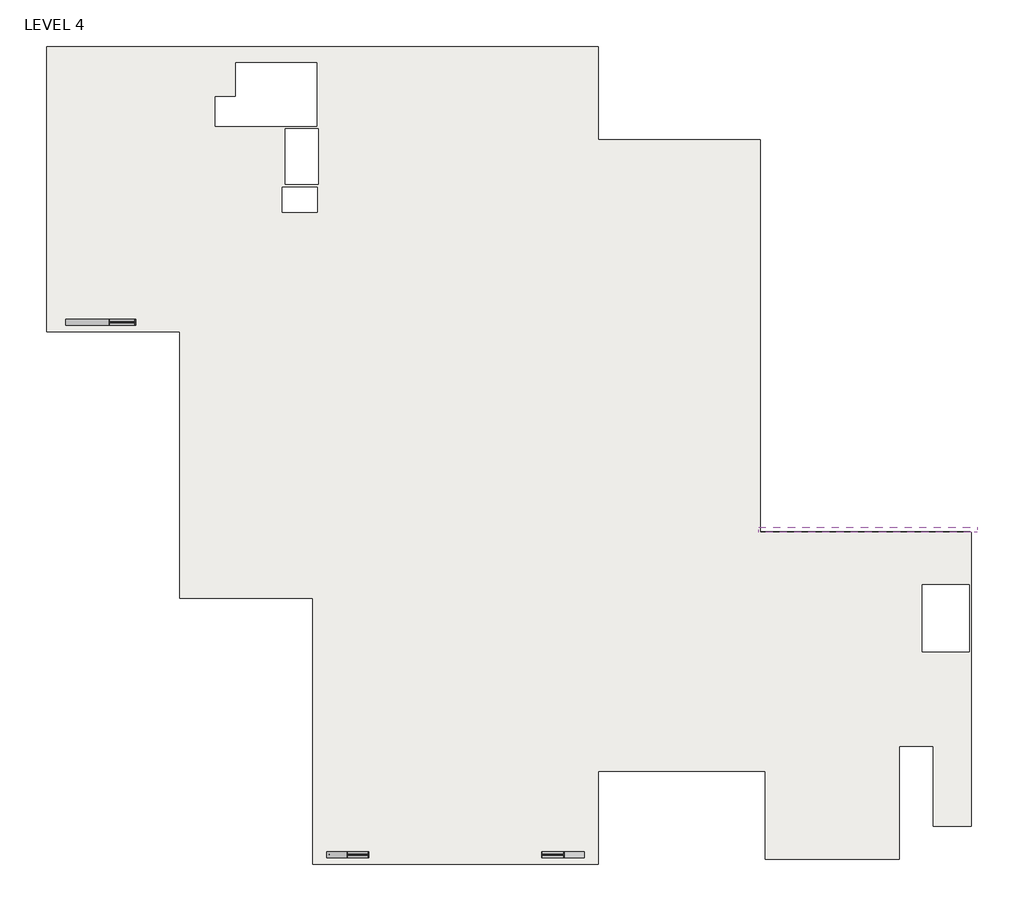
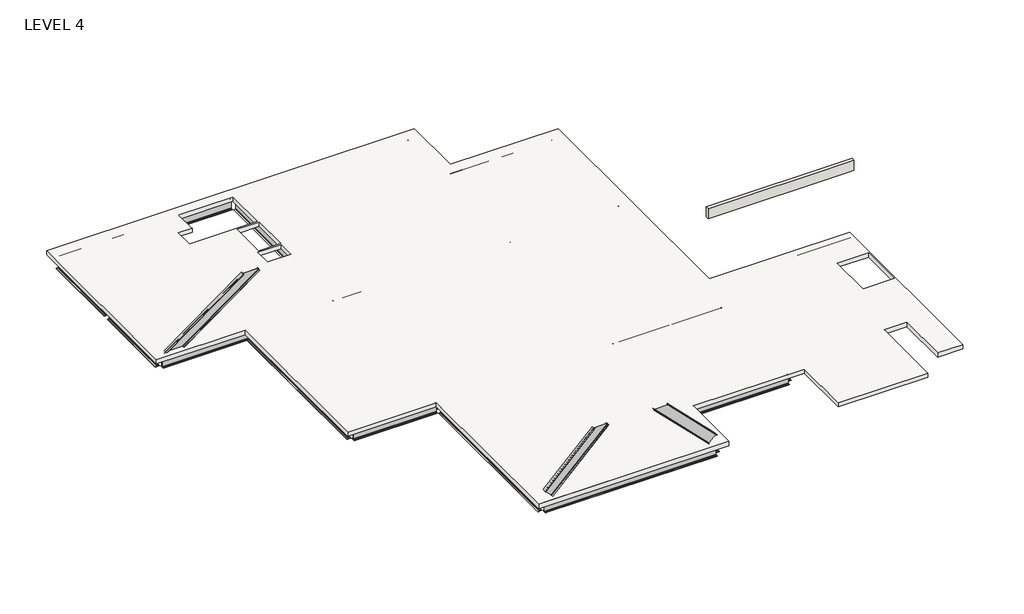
# One storey: 27 beams, 2 members, 1 slab, 1 wall.
"""IFC4 building model written with IfcOpenShell, lengths in millimetres."""

from ifc_helpers import new_model, si_unit, frame, origin, place, context, project, spatial, polyline, circle_curve, ellipse_curve, faceted_brep, transform, mapped, element, save
from ifc_brep_helpers import plane_surface, revolved_surface, advanced_brep
from components import w_wide_flange_w24x68_288c4e1d, w_wide_flange_w24x68_f1038f88, w_wide_flange_w24x68_9aefc99e, w_wide_flange_w24x68_ad03e389, w_wide_flange_w24x68_ff5f66c1, w_wide_flange_w24x68_64a19b5f, w_wide_flange_w24x68_3a27caef, w_wide_flange_w24x68_d201753e, w_wide_flange_w24x68_4ed4cbdf, w_wide_flange_w24x68_a18b2e65, w_wide_flange_w24x68_7e912eba

model = new_model("IFC4")

# Units and contexts
model_context = context("Model", 3, world=origin())
ifc_project = project(units=[si_unit("LENGTHUNIT", "METRE", prefix="MILLI")], contexts=[model_context])

# Site, building, storey
site = spatial("IfcSite", under=ifc_project)
building = spatial("IfcBuilding", under=site)
storey = spatial("IfcBuildingStorey", under=building, Name="LEVEL 4", Elevation=12801.6)

# Beams
placement = place(None, origin())
element("IfcBeam", 1, ObjectType="W-Wide Flange : W24X68", at=placement, inside=storey, context=model_context, shape_type="AdvancedBrep", body=[
    advanced_brep(
    [(-13126.6178135, 4131.6776318, 15952.3183163), (-13126.6178135, 4046.2701318, 15952.3183163), (-13140.2595154, 4023.0291318, 15971.1344809), (-13161.7604848, 4023.0291318, 16000.7910286), (-13161.7604848, 4012.4881318, 16000.7910286), (-13140.2595154, 4012.4881318, 15971.1344809), (-13126.6178135, 3989.2471318, 15952.3183163), (-13126.6178135, 3903.8396318, 15952.3183163), (-13117.8960697, 3903.8396318, 15940.2883094), (-13117.8960697, 4131.6776318, 15940.2883094), (-17619.936289, 4131.6776318, 12694.6666053), (-17619.936289, 4046.2701318, 12694.6666053), (-17659.5313547, 4023.0291318, 12694.6666053), (-13995.1111042, 4023.0291318, 16000.7910286), (-18555.2885791, 4023.0291318, 12694.6666053), (-14034.7061699, 4046.2701318, 16000.7910286), (-18594.8836448, 4046.2701318, 12694.6666053), (-14034.7061699, 4131.6776318, 16000.7910286), (-18594.8836448, 4131.6776318, 12694.6666053), (-14060.021048, 4131.6776318, 16000.7910286), (-18620.1985229, 4131.6776318, 12694.6666053), (-14060.021048, 3903.8396318, 16000.7910286), (-18620.1985229, 3903.8396318, 12694.6666053), (-14034.7061699, 3903.8396318, 16000.7910286), (-18594.8836448, 3903.8396318, 12694.6666053), (-14034.7061699, 3989.2471318, 16000.7910286), (-18594.8836448, 3989.2471318, 12694.6666053), (-13995.1111042, 4012.4881318, 16000.7910286), (-18555.2885791, 4012.4881318, 12694.6666053), (-17659.5313547, 4012.4881318, 12694.6666053), (-17619.936289, 3989.2471318, 12694.6666053), (-17619.936289, 3903.8396318, 12694.6666053), (-17594.6214109, 3903.8396318, 12694.6666053), (-17594.6214109, 4131.6776318, 12694.6666053)],
    [
        (0, 1),
        (1, 2, circle_curve(frame((-13140.2595154, 4046.2701318, 15971.1344809), z_axis=(-0.8096108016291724, 0.0, -0.5869670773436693), x_axis=(0.0, -1.0, 0.0)), 23.241)),
        (2, 3),
        (3, 4),
        (4, 5),
        (5, 6, circle_curve(frame((-13140.2595154, 3989.2471318, 15971.1344809), z_axis=(-0.8096108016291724, 0.0, -0.5869670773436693), x_axis=(0.0, -1.0, 0.0)), 23.241)),
        (6, 7),
        (7, 8),
        (8, 9),
        (9, 0),
        (0, 10),
        (10, 11),
        (11, 1),
        (11, 12, ellipse_curve(frame((-17659.5313547, 4046.2701318, 12694.6666053), z_axis=(0.0, 0.0, -1.0), x_axis=(-1.0, 0.0, 0.0)), 39.5950657, 23.241)),
        (12, 2),
        (13, 3),
        (12, 14),
        (14, 13),
        (15, 13, ellipse_curve(frame((-13995.1111042, 4046.2701318, 16000.7910286), z_axis=(0.0, 0.0, 1.0), x_axis=(-0.9999999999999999, 0.0, 0.0)), 39.5950657, 23.241)),
        (14, 16, ellipse_curve(frame((-18555.2885791, 4046.2701318, 12694.6666053), z_axis=(0.0, 0.0, -1.0), x_axis=(-1.0, 0.0, 0.0)), 39.5950657, 23.241)),
        (16, 15),
        (17, 15),
        (16, 18),
        (18, 17),
        (19, 17),
        (18, 20),
        (20, 19),
        (21, 19),
        (20, 22),
        (22, 21),
        (23, 21),
        (22, 24),
        (24, 23),
        (25, 23),
        (24, 26),
        (26, 25),
        (27, 25, ellipse_curve(frame((-13995.1111042, 3989.2471318, 16000.7910286), z_axis=(0.0, 0.0, 1.0), x_axis=(-0.9999999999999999, 0.0, 0.0)), 39.5950657, 23.241)),
        (26, 28, ellipse_curve(frame((-18555.2885791, 3989.2471318, 12694.6666053), z_axis=(0.0, 0.0, -1.0), x_axis=(-1.0, 0.0, 0.0)), 39.5950657, 23.241)),
        (28, 27),
        (4, 27),
        (28, 29),
        (29, 5),
        (29, 30, ellipse_curve(frame((-17659.5313547, 3989.2471318, 12694.6666053), z_axis=(0.0, 0.0, -1.0), x_axis=(-1.0, 0.0, 0.0)), 39.5950657, 23.241)),
        (30, 6),
        (30, 31),
        (31, 7),
        (31, 32),
        (32, 8),
        (32, 33),
        (33, 9),
        (33, 10),
    ],
    [
        plane_surface(frame((-13294.5672903, 4017.7586318, 16183.9730645), z_axis=(0.8096108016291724, 0.0, 0.586967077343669), x_axis=(-0.586967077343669, 0.0, 0.8096108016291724))),
        plane_surface(frame((-13126.6178135, 4131.6776318, 15952.3183163), z_axis=(-0.5869670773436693, 0.0, 0.8096108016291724), x_axis=(-0.8096108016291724, 0.0, -0.5869670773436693))),
        revolved_surface(polyline([(-17685.484718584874, 4023.0291318, 12675.850440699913), (-13140.259515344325, 4023.0291318, 15971.134480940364)]), (-13140.2595154, 4046.2701318, 15971.1344809), (-0.8096108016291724, 0.0, -0.5869670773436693)),
        plane_surface(frame((-13140.2595154, 4023.0291318, 15971.1344809), z_axis=(0.0, 1.0, 0.0), x_axis=(-0.8096108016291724, 0.0, -0.5869670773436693))),
        revolved_surface(polyline([(-18581.241942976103, 4023.0291318, 12675.850440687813), (-13969.157740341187, 4023.0291318, 16019.607193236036)]), (-13448.8750653, 4046.2701318, 16396.8116482), (-0.8096108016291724, 0.0, -0.5869670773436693)),
        plane_surface(frame((-13462.5167671, 4046.2701318, 16415.6278128), z_axis=(0.5869670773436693, 0.0, -0.8096108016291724), x_axis=(-0.8096108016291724, 0.0, -0.5869670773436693))),
        plane_surface(frame((-13462.5167671, 4131.6776318, 16415.6278128), z_axis=(0.0, 1.0, 0.0), x_axis=(-0.8096108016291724, 0.0, -0.5869670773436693))),
        plane_surface(frame((-13471.238511, 4131.6776318, 16427.6578197), z_axis=(-0.5869670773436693, 0.0, 0.8096108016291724), x_axis=(-0.8096108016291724, 0.0, -0.5869670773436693))),
        plane_surface(frame((-13471.238511, 3903.8396318, 16427.6578197), z_axis=(0.0, -1.0, 0.0), x_axis=(-0.8096108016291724, 0.0, -0.5869670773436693))),
        plane_surface(frame((-13462.5167671, 3903.8396318, 16415.6278128), z_axis=(0.5869670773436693, 0.0, -0.8096108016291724), x_axis=(-0.8096108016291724, 0.0, -0.5869670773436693))),
        revolved_surface(polyline([(-18581.241942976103, 3966.0061318, 12675.850440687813), (-13969.157740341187, 3966.0061318, 16019.607193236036)]), (-13448.8750653, 3989.2471318, 16396.8116482), (-0.8096108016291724, 0.0, -0.5869670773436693)),
        plane_surface(frame((-13448.8750653, 4012.4881318, 16396.8116482), z_axis=(0.0, -1.0, 0.0), x_axis=(-0.8096108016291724, 0.0, -0.5869670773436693))),
        revolved_surface(polyline([(-17685.484718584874, 3966.0061318, 12675.850440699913), (-13140.259515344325, 3966.0061318, 15971.134480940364)]), (-13140.2595154, 3989.2471318, 15971.1344809), (-0.8096108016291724, 0.0, -0.5869670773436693)),
        plane_surface(frame((-13126.6178135, 3989.2471318, 15952.3183163), z_axis=(-0.5869670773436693, 0.0, 0.8096108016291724), x_axis=(-0.8096108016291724, 0.0, -0.5869670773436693))),
        plane_surface(frame((-13126.6178135, 3903.8396318, 15952.3183163), z_axis=(0.0, -1.0, 0.0), x_axis=(-0.8096108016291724, 0.0, -0.5869670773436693))),
        plane_surface(frame((-13117.8960697, 3903.8396318, 15940.2883094), z_axis=(0.5869670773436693, 0.0, -0.8096108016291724), x_axis=(-0.8096108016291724, 0.0, -0.5869670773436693))),
        plane_surface(frame((-13117.8960697, 4131.6776318, 15940.2883094), z_axis=(0.0, 1.0, 0.0), x_axis=(-0.8096108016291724, 0.0, -0.5869670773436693))),
        plane_surface(frame((-14331.6588811, -2592.5913682, 16000.7910286), z_axis=(0.0, 0.0, 1.0), x_axis=(0.0, 1.0, 0.0))),
        plane_surface(frame((-17272.3226619, -2592.5913682, 12694.6666053), z_axis=(0.0, 0.0, -1.0), x_axis=(0.0, 1.0, 0.0))),
    ],
    [
        (0, [[1, 2, 3, 4, 5, 6, 7, 8, 9, 10]]),
        (1, [[-1, 11, 12, 13]]),
        (2, [[-2, -13, 14, 15]]),
        (3, [[16, -3, -15, 17, 18]]),
        (4, [[19, -18, 20, 21]]),
        (5, [[22, -21, 23, 24]]),
        (6, [[25, -24, 26, 27]]),
        (7, [[28, -27, 29, 30]]),
        (8, [[31, -30, 32, 33]]),
        (9, [[34, -33, 35, 36]]),
        (10, [[37, -36, 38, 39]]),
        (11, [[40, -39, 41, 42, -5]]),
        (12, [[-6, -42, 43, 44]]),
        (13, [[-7, -44, 45, 46]]),
        (14, [[-8, -46, 47, 48]]),
        (15, [[-9, -48, 49, 50]]),
        (16, [[-10, -50, 51, -11]]),
        (17, [[-16, -19, -22, -25, -28, -31, -34, -37, -40, -4]]),
        (18, [[-12, -51, -49, -47, -45, -43, -41, -38, -35, -32, -29, -26, -23, -20, -17, -14]]),
    ],
),
])
w_wide_flange_w24x68_shape = w_wide_flange_w24x68_288c4e1d(model_context)
element("IfcBeam", 2, ObjectType="W-Wide Flange : W24X68", at=placement, inside=storey, context=model_context, shape_type="MappedRepresentation", body=[
    mapped(w_wide_flange_w24x68_shape, transform((-18823.0492735, 11637.7586318, 12246.61), x_axis=(0.0, -1.0, 0.0), y_axis=(1.0, 0.0, 0.0), z_axis=(0.0, 0.0, 1.0))),
])
w_wide_flange_w24x68_2_shape = w_wide_flange_w24x68_f1038f88(model_context)
element("IfcBeam", 3, ObjectType="W-Wide Flange : W24X68", at=placement, inside=storey, context=model_context, shape_type="MappedRepresentation", body=[
    mapped(w_wide_flange_w24x68_2_shape, transform((-13743.0492735, 14177.7586318, 12246.61), x_axis=(1.0, 0.0, 0.0), y_axis=(0.0, 1.0, 0.0), z_axis=(0.0, 0.0, 1.0))),
])
element("IfcBeam", 4, ObjectType="W-Wide Flange : W24X68", at=placement, inside=storey, context=model_context, shape_type="MappedRepresentation", body=[
    mapped(w_wide_flange_w24x68_2_shape, transform((-3583.0492735, 14177.7586318, 12246.61), x_axis=(-1.0, 0.0, 0.0), y_axis=(0.0, -1.0, 0.0), z_axis=(0.0, 0.0, 1.0))),
])
element("IfcBeam", 5, ObjectType="W-Wide Flange : W24X68", at=placement, inside=storey, context=model_context, shape_type="MappedRepresentation", body=[
    mapped(w_wide_flange_w24x68_2_shape, transform((-13743.0492735, 4017.7586318, 12246.61), x_axis=(1.0, 0.0, 0.0), y_axis=(0.0, 1.0, 0.0), z_axis=(0.0, 0.0, 1.0))),
])
element("IfcBeam", 6, ObjectType="W-Wide Flange : W24X68", at=placement, inside=storey, context=model_context, shape_type="MappedRepresentation", body=[
    mapped(w_wide_flange_w24x68_2_shape, transform((-3583.0492735, -6142.2413682, 12246.61), x_axis=(1.0, 0.0, 0.0), y_axis=(0.0, 1.0, 0.0), z_axis=(0.0, 0.0, 1.0))),
])
element("IfcBeam", 7, ObjectType="W-Wide Flange : W24X68", at=placement, inside=storey, context=model_context, shape_type="MappedRepresentation", body=[
    mapped(w_wide_flange_w24x68_2_shape, transform((-3583.0492735, 4017.7586318, 12246.61), x_axis=(1.0, 0.0, 0.0), y_axis=(0.0, 1.0, 0.0), z_axis=(0.0, 0.0, 1.0))),
])
w_wide_flange_w24x68_3_shape = w_wide_flange_w24x68_9aefc99e(model_context)
element("IfcBeam", 8, ObjectType="W-Wide Flange : W24X68", at=placement, inside=storey, context=model_context, shape_type="MappedRepresentation", body=[
    mapped(w_wide_flange_w24x68_3_shape, transform((-18823.0492735, 6557.7586318, 12246.61), x_axis=(0.0, 1.0, 0.0), y_axis=(-1.0, 0.0, 0.0), z_axis=(0.0, 0.0, 1.0))),
])
w_wide_flange_w24x68_4_shape = w_wide_flange_w24x68_ad03e389(model_context)
element("IfcBeam", 9, ObjectType="W-Wide Flange : W24X68", at=placement, inside=storey, context=model_context, shape_type="MappedRepresentation", body=[
    mapped(w_wide_flange_w24x68_4_shape, transform((-8663.0492735, -1062.2413682, 12246.61), x_axis=(0.0, -1.0, 0.0), y_axis=(1.0, 0.0, 0.0), z_axis=(0.0, 0.0, 1.0))),
])
element("IfcBeam", 10, ObjectType="W-Wide Flange : W24X68", at=placement, inside=storey, context=model_context, shape_type="MappedRepresentation", body=[
    mapped(w_wide_flange_w24x68_4_shape, transform((7694.5507265, -1062.2413682, 12246.61), x_axis=(0.0, 1.0, 0.0), y_axis=(-1.0, 0.0, 0.0), z_axis=(0.0, 0.0, 1.0))),
])
element("IfcBeam", 11, ObjectType="W-Wide Flange : W24X68", at=placement, inside=storey, context=model_context, shape_type="MappedRepresentation", body=[
    mapped(w_wide_flange_w24x68_4_shape, transform((1496.9507265, -1062.2413682, 12246.61), x_axis=(0.0, 1.0, 0.0), y_axis=(-1.0, 0.0, 0.0), z_axis=(0.0, 0.0, 1.0))),
])
element("IfcBeam", 12, ObjectType="W-Wide Flange : W24X68", at=placement, inside=storey, context=model_context, shape_type="MappedRepresentation", body=[
    mapped(w_wide_flange_w24x68_4_shape, transform((-8663.0492735, 9097.7586318, 12246.61), x_axis=(0.0, 1.0, 0.0), y_axis=(-1.0, 0.0, 0.0), z_axis=(0.0, 0.0, 1.0))),
])
w_wide_flange_w24x68_5_shape = w_wide_flange_w24x68_ff5f66c1(model_context)
element("IfcBeam", 13, ObjectType="W-Wide Flange : W24X68", at=placement, inside=storey, context=model_context, shape_type="MappedRepresentation", body=[
    mapped(w_wide_flange_w24x68_5_shape, transform((-11203.0492735, -6142.2413682, 12246.61), x_axis=(1.0, 0.0, 0.0), y_axis=(0.0, 1.0, 0.0), z_axis=(0.0, 0.0, 1.0))),
])
w_wide_flange_w24x68_6_shape = w_wide_flange_w24x68_64a19b5f(model_context)
element("IfcBeam", 14, ObjectType="W-Wide Flange : W24X68", at=placement, inside=storey, context=model_context, shape_type="MappedRepresentation", body=[
    mapped(w_wide_flange_w24x68_6_shape, transform((-8663.0492735, -11222.2413682, 12246.61), x_axis=(0.0, -1.0, 0.0), y_axis=(1.0, 0.0, 0.0), z_axis=(0.0, 0.0, 1.0))),
])
element("IfcBeam", 15, ObjectType="W-Wide Flange : W24X68", at=placement, inside=storey, context=model_context, shape_type="MappedRepresentation", body=[
    mapped(w_wide_flange_w24x68_6_shape, transform((-3583.0492735, -16302.2413682, 12246.61), x_axis=(1.0, 0.0, 0.0), y_axis=(0.0, 1.0, 0.0), z_axis=(0.0, 0.0, 1.0))),
])
w_wide_flange_w24x68_7_shape = w_wide_flange_w24x68_3a27caef(model_context)
element("IfcBeam", 16, ObjectType="W-Wide Flange : W24X68", at=placement, inside=storey, context=model_context, shape_type="MappedRepresentation", body=[
    mapped(w_wide_flange_w24x68_7_shape, transform((1496.9507265, -14524.2413682, 12246.61), x_axis=(0.0, 1.0, 0.0), y_axis=(-1.0, 0.0, 0.0), z_axis=(0.0, 0.0, 1.0))),
])
element("IfcBeam", 17, ObjectType="W-Wide Flange : W24X68", at=placement, inside=storey, context=model_context, shape_type="MappedRepresentation", body=[
    mapped(w_wide_flange_w24x68_7_shape, transform((1496.9507265, 12399.7586318, 12246.61), x_axis=(0.0, -1.0, 0.0), y_axis=(1.0, 0.0, 0.0), z_axis=(0.0, 0.0, 1.0))),
])
w_wide_flange_w24x68_8_shape = w_wide_flange_w24x68_d201753e(model_context)
element("IfcBeam", 18, ObjectType="W-Wide Flange : W24X68", at=placement, inside=storey, context=model_context, shape_type="MappedRepresentation", body=[
    mapped(w_wide_flange_w24x68_8_shape, transform((4595.7507265, -12746.2413682, 12246.61), x_axis=(-1.0, 0.0, 0.0), y_axis=(0.0, -1.0, 0.0), z_axis=(0.0, 0.0, 1.0))),
])
element("IfcBeam", 19, ObjectType="W-Wide Flange : W24X68", at=placement, inside=storey, context=model_context, shape_type="MappedRepresentation", body=[
    mapped(w_wide_flange_w24x68_8_shape, transform((4595.7507265, -6142.2413682, 12246.61), x_axis=(1.0, 0.0, 0.0), y_axis=(0.0, 1.0, 0.0), z_axis=(0.0, 0.0, 1.0))),
])
element("IfcBeam", 20, ObjectType="W-Wide Flange : W24X68", at=placement, inside=storey, context=model_context, shape_type="MappedRepresentation", body=[
    mapped(w_wide_flange_w24x68_8_shape, transform((4595.7507265, 4017.7586318, 12246.61), x_axis=(-1.0, 0.0, 0.0), y_axis=(0.0, -1.0, 0.0), z_axis=(0.0, 0.0, 1.0))),
])
element("IfcBeam", 21, ObjectType="W-Wide Flange : W24X68", at=placement, inside=storey, context=model_context, shape_type="MappedRepresentation", body=[
    mapped(w_wide_flange_w24x68_8_shape, transform((4595.7507265, 10621.7586318, 12246.61), x_axis=(1.0, 0.0, 0.0), y_axis=(0.0, 1.0, 0.0), z_axis=(0.0, 0.0, 1.0))),
])
w_wide_flange_w24x68_9_shape = w_wide_flange_w24x68_4ed4cbdf(model_context)
element("IfcBeam", 22, ObjectType="W-Wide Flange : W24X68", at=placement, inside=storey, context=model_context, shape_type="MappedRepresentation", body=[
    mapped(w_wide_flange_w24x68_9_shape, transform((7694.5507265, -9444.2413682, 12246.61), x_axis=(0.0, -1.0, 0.0), y_axis=(1.0, 0.0, 0.0), z_axis=(0.0, 0.0, 1.0))),
])
element("IfcBeam", 23, ObjectType="W-Wide Flange : W24X68", at=placement, inside=storey, context=model_context, shape_type="MappedRepresentation", body=[
    mapped(w_wide_flange_w24x68_9_shape, transform((1496.9507265, 7319.7586318, 12246.61), x_axis=(0.0, 1.0, 0.0), y_axis=(-1.0, 0.0, 0.0), z_axis=(0.0, 0.0, 1.0))),
])
element("IfcBeam", 24, ObjectType="W-Wide Flange : W24X68", at=placement, inside=storey, context=model_context, shape_type="MappedRepresentation", body=[
    mapped(w_wide_flange_w24x68_9_shape, transform((7694.5507265, 7319.7586318, 12246.61), x_axis=(0.0, 1.0, 0.0), y_axis=(-1.0, 0.0, 0.0), z_axis=(0.0, 0.0, 1.0))),
])
element("IfcBeam", 25, ObjectType="W-Wide Flange : W24X68", at=placement, inside=storey, context=model_context, shape_type="MappedRepresentation", body=[
    mapped(w_wide_flange_w24x68_9_shape, transform((1496.9507265, -9444.2413682, 12246.61), x_axis=(0.0, 1.0, 0.0), y_axis=(-1.0, 0.0, 0.0), z_axis=(0.0, 0.0, 1.0))),
])
w_wide_flange_w24x68_10_shape = w_wide_flange_w24x68_a18b2e65(model_context)
element("IfcBeam", 26, ObjectType="W-Wide Flange : W24X68", at=placement, inside=storey, context=model_context, shape_type="MappedRepresentation", body=[
    mapped(w_wide_flange_w24x68_10_shape, transform((-13743.0492735, -1062.2413682, 12246.61), x_axis=(0.0, 1.0, 0.0), y_axis=(-1.0, 0.0, 0.0), z_axis=(0.0, 0.0, 1.0))),
])
w_wide_flange_w24x68_11_shape = w_wide_flange_w24x68_7e912eba(model_context)
element("IfcBeam", 27, ObjectType="W-Wide Flange : W24X68", at=placement, inside=storey, context=model_context, shape_type="MappedRepresentation", body=[
    mapped(w_wide_flange_w24x68_11_shape, transform((11885.5507265, -4083.2538682, 12246.61), x_axis=(-1.0, 0.0, 0.0), y_axis=(0.0, -1.0, 0.0), z_axis=(0.0, 0.0, 1.0))),
])

# Members
element("IfcMember", 28, ObjectType="W-Wide Flange : W24X68", at=placement, inside=storey, context=model_context, shape_type="AdvancedBrep", body=[
    advanced_brep(
    [(1308.6246729, -16296.9708682, 13209.5183584), (1325.0631439, -16273.7298682, 13225.9476235), (1325.0631439, -16188.3223682, 13225.9476235), (1332.7454977, -16188.3223682, 13233.6256751), (1332.7454977, -16416.1603682, 13233.6256751), (1325.0631439, -16416.1603682, 13225.9476235), (1325.0631439, -16330.7528682, 13225.9476235), (1308.6246729, -16307.5118682, 13209.5183584), (947.640702, -16307.5118682, 12848.7365459), (947.640702, -16296.9708682, 12848.7365459), (-2203.0453244, -16330.7528682, 15946.5055589), (-2203.0453244, -16416.1603682, 15946.5055589), (893.1520693, -16416.1603682, 12848.5732599), (893.1520693, -16330.7528682, 12848.5732599), (-2170.2849071, -16307.5118682, 15946.6037321), (925.9124865, -16307.5118682, 12848.671433), (-1429.1475994, -16307.5118682, 15948.8246982), (-1396.3871821, -16330.7528682, 15948.9228714), (-1396.3871821, -16416.1603682, 15948.9228714), (1332.7285005, -16416.1603682, 13239.2976593), (-1375.4419973, -16416.1603682, 15948.9856378), (-1375.4419973, -16188.3223682, 15948.9856378), (1332.7285005, -16188.3223682, 13239.2976593), (-1396.3871821, -16188.3223682, 15948.9228714), (-1396.3871821, -16273.7298682, 15948.9228714), (-1429.1475994, -16296.9708682, 15948.8246982), (925.9124865, -16296.9708682, 12848.671433), (-2170.2849071, -16296.9708682, 15946.6037321), (-2203.0453244, -16273.7298682, 15946.5055589), (893.1520693, -16273.7298682, 12848.5732599), (-2203.0453244, -16188.3223682, 15946.5055589), (893.1520693, -16188.3223682, 12848.5732599), (-2223.9905091, -16188.3223682, 15946.4427925), (872.2068845, -16188.3223682, 12848.5104934), (-2223.9905091, -16416.1603682, 15946.4427925), (872.2068845, -16416.1603682, 12848.5104934)],
    [
        (0, 1, circle_curve(frame((1308.6246729, -16273.7298682, 13209.5183584), z_axis=(-0.706908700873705, 0.0, 0.7073048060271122), x_axis=(0.0, 1.0000000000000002, 0.0)), 23.241)),
        (1, 2),
        (2, 3),
        (3, 4),
        (4, 5),
        (5, 6),
        (6, 7, circle_curve(frame((1308.6246729, -16330.7528682, 13209.5183584), z_axis=(-0.706908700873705, 0.0, 0.7073048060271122), x_axis=(0.0, 1.0000000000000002, 0.0)), 23.241)),
        (7, 8),
        (8, 9),
        (9, 0),
        (10, 11),
        (11, 12),
        (12, 13),
        (13, 10),
        (14, 10, ellipse_curve(frame((-2170.2849071, -16330.7528682, 15946.6037321), z_axis=(-0.0029966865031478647, 0.0, 0.9999955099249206), x_axis=(0.9999955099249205, 0.0, 0.0029966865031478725)), 32.7605643, 23.241)),
        (13, 15, ellipse_curve(frame((925.9124865, -16330.7528682, 12848.671433), z_axis=(0.0029966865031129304, 0.0, -0.9999955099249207), x_axis=(0.9999955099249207, 0.0, 0.0029966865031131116)), 32.7605643, 23.241)),
        (15, 14),
        (7, 16),
        (16, 14),
        (15, 8),
        (6, 17),
        (17, 16, ellipse_curve(frame((-1429.1475994, -16330.7528682, 15948.8246982), z_axis=(-0.0029966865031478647, 0.0, 0.9999955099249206), x_axis=(0.9999955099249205, 0.0, 0.0029966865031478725)), 32.7605643, 23.241)),
        (5, 18),
        (18, 17),
        (4, 19),
        (19, 20),
        (20, 18),
        (21, 20),
        (19, 22),
        (22, 21),
        (2, 23),
        (23, 21),
        (22, 3),
        (1, 24),
        (24, 23),
        (0, 25),
        (25, 24, ellipse_curve(frame((-1429.1475994, -16273.7298682, 15948.8246982), z_axis=(-0.0029966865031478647, 0.0, 0.9999955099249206), x_axis=(0.9999955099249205, 0.0, 0.0029966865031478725)), 32.7605643, 23.241)),
        (9, 26),
        (26, 27),
        (27, 25),
        (28, 27, ellipse_curve(frame((-2170.2849071, -16273.7298682, 15946.6037321), z_axis=(-0.0029966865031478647, 0.0, 0.9999955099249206), x_axis=(0.9999955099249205, 0.0, 0.0029966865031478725)), 32.7605643, 23.241)),
        (26, 29, ellipse_curve(frame((925.9124865, -16273.7298682, 12848.671433), z_axis=(0.0029966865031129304, 0.0, -0.9999955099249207), x_axis=(0.9999955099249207, 0.0, 0.0029966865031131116)), 32.7605643, 23.241)),
        (29, 28),
        (30, 28),
        (29, 31),
        (31, 30),
        (32, 30),
        (31, 33),
        (33, 32),
        (34, 32),
        (33, 35),
        (35, 34),
        (11, 34),
        (35, 12),
    ],
    [
        plane_surface(frame((1122.6813124, -16302.2413682, 13023.67913), z_axis=(0.706908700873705, 0.0, -0.7073048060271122), x_axis=(0.7073048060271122, 0.0, 0.706908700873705))),
        plane_surface(frame((-2284.8254477, -16416.1603682, 16028.3315065), z_axis=(0.7073048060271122, 0.0, 0.706908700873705), x_axis=(0.706908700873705, 0.0, -0.7073048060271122))),
        revolved_surface(polyline([(942.2344327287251, -16307.5118682, 12832.340341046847), (-2186.6068533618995, -16307.5118682, 15962.934824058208)]), (-2268.3869767, -16330.7528682, 16044.7607716), (0.706908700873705, 0.0, -0.7073048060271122)),
        plane_surface(frame((-2268.3869767, -16307.5118682, 16044.7607716), z_axis=(0.0, -1.0000000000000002, 0.0), x_axis=(0.706908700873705, 0.0, -0.7073048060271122))),
        revolved_surface(polyline([(1308.62467293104, -16307.5118682, 13209.518358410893), (-1445.4695455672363, -16307.5118682, 15965.155790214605)]), (-1896.5002558, -16330.7528682, 16416.4392284), (0.706908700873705, 0.0, -0.7073048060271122)),
        plane_surface(frame((-1880.0617848, -16330.7528682, 16432.8684935), z_axis=(-0.7073048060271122, 0.0, -0.706908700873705), x_axis=(0.706908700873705, 0.0, -0.7073048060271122))),
        plane_surface(frame((-1880.0617848, -16416.1603682, 16432.8684935), z_axis=(0.0, -1.0000000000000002, 0.0), x_axis=(0.706908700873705, 0.0, -0.7073048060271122))),
        plane_surface(frame((-1869.5519427, -16416.1603682, 16443.3724499), z_axis=(0.7073048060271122, 0.0, 0.706908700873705), x_axis=(0.706908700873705, 0.0, -0.7073048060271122))),
        plane_surface(frame((-1869.5519427, -16188.3223682, 16443.3724499), z_axis=(0.0, 1.0000000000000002, 0.0), x_axis=(0.706908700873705, 0.0, -0.7073048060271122))),
        plane_surface(frame((-1880.0617848, -16188.3223682, 16432.8684935), z_axis=(-0.7073048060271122, 0.0, -0.706908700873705), x_axis=(0.706908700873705, 0.0, -0.7073048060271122))),
        revolved_surface(polyline([(1308.62467293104, -16250.4888682, 13209.518358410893), (-1445.4695455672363, -16250.4888682, 15965.155790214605)]), (-1896.5002558, -16273.7298682, 16416.4392284), (0.706908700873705, 0.0, -0.7073048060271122)),
        plane_surface(frame((-1896.5002558, -16296.9708682, 16416.4392284), z_axis=(0.0, 1.0000000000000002, 0.0), x_axis=(0.706908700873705, 0.0, -0.7073048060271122))),
        revolved_surface(polyline([(942.2344327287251, -16250.4888682, 12832.340341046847), (-2186.6068533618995, -16250.4888682, 15962.934824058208)]), (-2268.3869767, -16273.7298682, 16044.7607716), (0.706908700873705, 0.0, -0.7073048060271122)),
        plane_surface(frame((-2284.8254477, -16273.7298682, 16028.3315065), z_axis=(0.7073048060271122, 0.0, 0.706908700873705), x_axis=(0.706908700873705, 0.0, -0.7073048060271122))),
        plane_surface(frame((-2284.8254477, -16188.3223682, 16028.3315065), z_axis=(0.0, 1.0000000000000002, 0.0), x_axis=(0.706908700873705, 0.0, -0.7073048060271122))),
        plane_surface(frame((-2295.3352898, -16188.3223682, 16017.8275501), z_axis=(-0.7073048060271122, 0.0, -0.706908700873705), x_axis=(0.706908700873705, 0.0, -0.7073048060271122))),
        plane_surface(frame((-2295.3352898, -16416.1603682, 16017.8275501), z_axis=(0.0, -1.0000000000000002, 0.0), x_axis=(0.706908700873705, 0.0, -0.7073048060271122))),
        plane_surface(frame((-1089.0623036, -11238.7949311, 15949.8438318), z_axis=(-0.0029966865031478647, 0.0, 0.9999955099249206), x_axis=(0.0, -1.0, 0.0))),
        plane_surface(frame((751.5378209, -11238.7949311, 12848.1488844), z_axis=(0.0029966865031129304, 0.0, -0.9999955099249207), x_axis=(0.0, -1.0, 0.0))),
        plane_surface(frame((1333.8954263, -11238.7949311, 12849.8940355), z_axis=(0.9999955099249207, 0.0, 0.002996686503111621), x_axis=(0.0, -1.0, 0.0))),
    ],
    [
        (0, [[1, 2, 3, 4, 5, 6, 7, 8, 9, 10]]),
        (1, [[11, 12, 13, 14]]),
        (2, [[15, -14, 16, 17]]),
        (3, [[18, 19, -17, 20, -8]]),
        (4, [[-7, 21, 22, -18]]),
        (5, [[-6, 23, 24, -21]]),
        (6, [[-23, -5, 25, 26, 27]]),
        (7, [[28, -26, 29, 30]]),
        (8, [[31, 32, -30, 33, -3]]),
        (9, [[-2, 34, 35, -31]]),
        (10, [[-1, 36, 37, -34]]),
        (11, [[-36, -10, 38, 39, 40]]),
        (12, [[41, -39, 42, 43]]),
        (13, [[44, -43, 45, 46]]),
        (14, [[47, -46, 48, 49]]),
        (15, [[50, -49, 51, 52]]),
        (16, [[53, -52, 54, -12]]),
        (17, [[-11, -15, -19, -22, -24, -27, -28, -32, -35, -37, -40, -41, -44, -47, -50, -53]]),
        (18, [[-9, -20, -16, -13, -54, -51, -48, -45, -42, -38]]),
        (19, [[-4, -33, -29, -25]]),
    ],
),
])
element("IfcMember", 29, ObjectType="W-Wide Flange : W24X68", at=placement, inside=storey, context=model_context, shape_type="AdvancedBrep", body=[
    advanced_brep(
    [(-4888.531048, -16330.7528682, 16021.0735578), (-4888.531048, -16416.1603682, 16021.0735578), (-4878.0211999, -16416.1603682, 16010.5696074), (-4878.0211999, -16188.3223682, 16010.5696074), (-4888.531048, -16188.3223682, 16021.0735578), (-4888.531048, -16273.7298682, 16021.0735578), (-4904.9695284, -16296.9708682, 16037.5028136), (-4912.1132938, -16296.9708682, 16044.6425703), (-4912.1132938, -16307.5118682, 16044.6425703), (-4904.9695284, -16307.5118682, 16037.5028136), (-8074.6179489, -16416.1603682, 12812.1780565), (-8085.127797, -16416.1603682, 12822.6820069), (-8085.127797, -16330.7528682, 12822.6820069), (-8101.5662773, -16307.5118682, 12839.1112626), (-8400.9245278, -16307.5118682, 13138.301526), (-8400.9245278, -16296.9708682, 13138.301526), (-8101.5662773, -16296.9708682, 12839.1112626), (-8085.127797, -16273.7298682, 12822.6820069), (-8085.127797, -16188.3223682, 12822.6820069), (-8074.6179489, -16188.3223682, 12812.1780565), (-8489.89169, -16188.3223682, 13227.2187636), (-8489.89169, -16273.7298682, 13227.2187636), (-8482.4707899, -16293.1618473, 13219.8020278), (-8482.4707899, -16311.3208891, 13219.8020278), (-8489.89169, -16330.7528682, 13227.2187636), (-8489.89169, -16416.1603682, 13227.2187636), (-8500.4015381, -16416.1603682, 13237.722714), (-8500.4015381, -16188.3223682, 13237.722714), (-5641.3949492, -16307.5118682, 16044.4378919), (-8461.2183986, -16307.5118682, 13223.0311884), (-8400.6430902, -16307.5118682, 13232.2352069), (-5674.2626853, -16330.7528682, 16044.4286673), (-5674.2626853, -16416.1603682, 16044.4286673), (-5695.2764838, -16416.1603682, 16044.4227696), (-5695.2764838, -16188.3223682, 16044.4227696), (-5674.2626853, -16188.3223682, 16044.4286673), (-5674.2626853, -16273.7298682, 16044.4286673), (-5641.3949492, -16296.9708682, 16044.4378919), (-8461.2183986, -16296.9708682, 13223.0311884), (-8400.6430902, -16296.9708682, 13232.2352069)],
    [
        (0, 1),
        (1, 2),
        (2, 3),
        (3, 4),
        (4, 5),
        (5, 6, circle_curve(frame((-4904.9695284, -16273.7298682, 16037.5028136), z_axis=(-0.7069082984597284, 0.0, -0.7073052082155), x_axis=(0.0, 1.0000000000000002, 0.0)), 23.241)),
        (6, 7),
        (7, 8),
        (8, 9),
        (9, 0, circle_curve(frame((-4904.9695284, -16330.7528682, 16037.5028136), z_axis=(-0.7069082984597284, 0.0, -0.7073052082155), x_axis=(0.0, 1.0000000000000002, 0.0)), 23.241)),
        (10, 11),
        (11, 12),
        (12, 13, circle_curve(frame((-8101.5662773, -16330.7528682, 12839.1112626), z_axis=(0.7069082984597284, 0.0, 0.7073052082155), x_axis=(0.0, 1.0000000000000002, 0.0)), 23.241)),
        (13, 14),
        (14, 15),
        (15, 16),
        (16, 17, circle_curve(frame((-8101.5662773, -16273.7298682, 12839.1112626), z_axis=(0.7069082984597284, 0.0, 0.7073052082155), x_axis=(0.0, 1.0000000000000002, 0.0)), 23.241)),
        (17, 18),
        (18, 19),
        (19, 10),
        (20, 21),
        (21, 22, circle_curve(frame((-8473.4532097, -16273.7298682, 13210.7895078), z_axis=(0.7069082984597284, 0.0, 0.7073052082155), x_axis=(0.0, 1.0000000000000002, 0.0)), 23.241)),
        (22, 23),
        (23, 24, circle_curve(frame((-8473.4532097, -16330.7528682, 13210.7895078), z_axis=(0.7069082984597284, 0.0, 0.7073052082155), x_axis=(0.0, 1.0000000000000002, 0.0)), 23.241)),
        (24, 25),
        (25, 26),
        (26, 27),
        (27, 20),
        (0, 12),
        (11, 1),
        (9, 13),
        (8, 28),
        (28, 29),
        (29, 30),
        (30, 14),
        (31, 24),
        (23, 29, ellipse_curve(frame((-8461.2183986, -16330.7528682, 13223.0311884), z_axis=(0.150219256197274, 0.0, -0.9886527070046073), x_axis=(-0.9886527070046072, 0.0, -0.15021925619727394)), 39.1864296, 23.241)),
        (28, 31, ellipse_curve(frame((-5641.3949492, -16330.7528682, 16044.4378919), z_axis=(-0.00028065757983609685, 0.0, 0.9999999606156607), x_axis=(-0.9999999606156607, 0.0, -0.00028065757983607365)), 32.8677374, 23.241)),
        (31, 32),
        (32, 25),
        (32, 33),
        (33, 26),
        (33, 34),
        (34, 27),
        (34, 35),
        (35, 20),
        (35, 36),
        (36, 21),
        (36, 37, ellipse_curve(frame((-5641.3949492, -16273.7298682, 16044.4378919), z_axis=(-0.00028065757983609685, 0.0, 0.9999999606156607), x_axis=(-0.9999999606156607, 0.0, -0.00028065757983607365)), 32.8677374, 23.241)),
        (37, 38),
        (38, 22, ellipse_curve(frame((-8461.2183986, -16273.7298682, 13223.0311884), z_axis=(0.150219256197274, 0.0, -0.9886527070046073), x_axis=(-0.9886527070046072, 0.0, -0.15021925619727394)), 39.1864296, 23.241)),
        (6, 16),
        (15, 39),
        (39, 38),
        (37, 7),
        (5, 17),
        (4, 18),
        (3, 19),
        (2, 10),
        (39, 30),
    ],
    [
        plane_surface(frame((-5090.9129945, -16302.2413682, 16223.3419362), z_axis=(0.7069082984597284, 0.0, 0.7073052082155), x_axis=(-0.7073052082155, 0.0, 0.7069082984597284))),
        plane_surface(frame((-8287.5097435, -16302.2413682, 13024.9503852), z_axis=(-0.7069082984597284, 0.0, -0.7073052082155), x_axis=(-0.7073052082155, 0.0, 0.7069082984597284))),
        plane_surface(frame((-4888.531048, -16416.1603682, 16021.0735578), z_axis=(-0.7073052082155, 0.0, 0.7069082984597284), x_axis=(-0.7069082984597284, 0.0, -0.7073052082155))),
        revolved_surface(polyline([(-8101.56627734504, -16307.5118682, 12839.111262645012), (-4904.969528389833, -16307.5118682, 16037.502813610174)]), (-4904.9695284, -16330.7528682, 16037.5028136), (-0.7069082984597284, 0.0, -0.7073052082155)),
        plane_surface(frame((-4904.9695284, -16307.5118682, 16037.5028136), z_axis=(0.0, -1.0000000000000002, 0.0), x_axis=(-0.7069082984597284, 0.0, -0.7073052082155))),
        revolved_surface(polyline([(-8483.521687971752, -16307.5118682, 13200.715376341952), (-5624.9656934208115, -16307.5118682, 16060.876372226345)]), (-5276.8564607, -16330.7528682, 16409.1810588), (-0.7069082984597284, 0.0, -0.7073052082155)),
        plane_surface(frame((-5293.2949411, -16330.7528682, 16425.6103145), z_axis=(0.7073052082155, 0.0, -0.7069082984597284), x_axis=(-0.7069082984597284, 0.0, -0.7073052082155))),
        plane_surface(frame((-5293.2949411, -16416.1603682, 16425.6103145), z_axis=(0.0, -1.0000000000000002, 0.0), x_axis=(-0.7069082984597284, 0.0, -0.7073052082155))),
        plane_surface(frame((-5303.8047892, -16416.1603682, 16436.1142649), z_axis=(-0.7073052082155, 0.0, 0.7069082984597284), x_axis=(-0.7069082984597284, 0.0, -0.7073052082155))),
        plane_surface(frame((-5303.8047892, -16188.3223682, 16436.1142649), z_axis=(0.0, 1.0000000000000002, 0.0), x_axis=(-0.7069082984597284, 0.0, -0.7073052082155))),
        plane_surface(frame((-5293.2949411, -16188.3223682, 16425.6103145), z_axis=(0.7073052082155, 0.0, -0.7069082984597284), x_axis=(-0.7069082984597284, 0.0, -0.7073052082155))),
        revolved_surface(polyline([(-8483.521687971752, -16250.4888682, 13200.715376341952), (-5624.9656934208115, -16250.4888682, 16060.876372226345)]), (-5276.8564607, -16273.7298682, 16409.1810588), (-0.7069082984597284, 0.0, -0.7073052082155)),
        plane_surface(frame((-5276.8564607, -16296.9708682, 16409.1810588), z_axis=(0.0, 1.0000000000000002, 0.0), x_axis=(-0.7069082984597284, 0.0, -0.7073052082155))),
        revolved_surface(polyline([(-8101.56627734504, -16250.4888682, 12839.111262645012), (-4904.969528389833, -16250.4888682, 16037.502813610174)]), (-4904.9695284, -16273.7298682, 16037.5028136), (-0.7069082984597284, 0.0, -0.7073052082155)),
        plane_surface(frame((-4888.531048, -16273.7298682, 16021.0735578), z_axis=(-0.7073052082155, 0.0, 0.7069082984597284), x_axis=(-0.7069082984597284, 0.0, -0.7073052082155))),
        plane_surface(frame((-4888.531048, -16188.3223682, 16021.0735578), z_axis=(0.0, 1.0000000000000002, 0.0), x_axis=(-0.7069082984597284, 0.0, -0.7073052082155))),
        plane_surface(frame((-4878.0211999, -16188.3223682, 16010.5696074), z_axis=(0.7073052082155, 0.0, -0.7069082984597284), x_axis=(-0.7069082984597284, 0.0, -0.7073052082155))),
        plane_surface(frame((-4878.0211999, -16416.1603682, 16010.5696074), z_axis=(0.0, -1.0000000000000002, 0.0), x_axis=(-0.7069082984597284, 0.0, -0.7073052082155))),
        plane_surface(frame((-6182.897664, -21355.4233534, 16044.285915), z_axis=(-0.00028065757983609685, 0.0, 0.9999999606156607), x_axis=(0.0, 1.0, 0.0))),
        plane_surface(frame((-8400.6430902, -21355.4233534, 13232.2352069), z_axis=(0.150219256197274, 0.0, -0.9886527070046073), x_axis=(0.0, 1.0, 0.0))),
        plane_surface(frame((-8402.0818275, -21355.4233534, 12752.0368125), z_axis=(-0.9999955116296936, 0.0, 0.0029961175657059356), x_axis=(0.0, 1.0, 0.0))),
    ],
    [
        (0, [[1, 2, 3, 4, 5, 6, 7, 8, 9, 10]]),
        (1, [[11, 12, 13, 14, 15, 16, 17, 18, 19, 20]]),
        (1, [[21, 22, 23, 24, 25, 26, 27, 28]]),
        (2, [[-1, 29, -12, 30]]),
        (3, [[-10, 31, -13, -29]]),
        (4, [[-31, -9, 32, 33, 34, 35, -14]]),
        (5, [[36, -24, 37, -33, 38]]),
        (6, [[-25, -36, 39, 40]]),
        (7, [[-26, -40, 41, 42]]),
        (8, [[-27, -42, 43, 44]]),
        (9, [[-28, -44, 45, 46]]),
        (10, [[-21, -46, 47, 48]]),
        (11, [[-48, 49, 50, 51, -22]]),
        (12, [[52, -16, 53, 54, -50, 55, -7]]),
        (13, [[-6, 56, -17, -52]]),
        (14, [[-5, 57, -18, -56]]),
        (15, [[-4, 58, -19, -57]]),
        (16, [[-3, 59, -20, -58]]),
        (17, [[-2, -30, -11, -59]]),
        (18, [[-32, -8, -55, -49, -47, -45, -43, -41, -39, -38]]),
        (19, [[60, -34, -37, -23, -51, -54]]),
        (20, [[-60, -53, -15, -35]]),
    ],
),
])

# Slab
element("IfcSlab", 30, ObjectType="6\" LW Concrete on 4\" Metal Deck", at=placement, inside=storey, context=model_context, shape_type="Brep", body=[
    faceted_brep([(1865.2507265, 14546.0586318, 12547.6), (1865.2507265, 10990.0586318, 12547.6), (8062.8507265, 10990.0586318, 12547.6), (8062.8507265, -3999.1163682, 12547.6), (16101.7470917, -3999.1163682, 12547.6), (16101.7470917, -15217.6385119, 12547.6), (14657.1220917, -15217.6385119, 12547.6), (14657.1220917, -12160.1135119, 12547.6), (13368.2757265, -12160.1135119, 12547.6), (13368.2757265, -16476.8663682, 12547.6), (8240.6507265, -16476.8663682, 12547.6), (8240.6507265, -13114.5413682, 12547.6), (1865.2507265, -13114.5413682, 12547.6), (1865.2507265, -16670.5413682, 12547.6), (-9031.3492735, -16670.5413682, 12547.6), (-9031.3492735, -6510.5413682, 12547.6), (-14111.3492735, -6510.5413682, 12547.6), (-14111.3492735, 3649.4586318, 12547.6), (-19191.3492735, 3649.4586318, 12547.6), (-19191.3492735, 14546.0586318, 12547.6), (-8878.9492735, 11507.5836318, 12547.6), (-8878.9492735, 13920.5836318, 12547.6), (-11937.8838599, 13920.5836318, 12547.6), (-11968.6004429, 13920.5836318, 12547.6), (-11968.6004429, 12625.1836318, 12547.6), (-12744.3338599, 12625.1836318, 12547.6), (-12744.3338599, 11507.5836318, 12547.6), (16025.5470917, -6008.8913682, 12547.6), (14241.1970917, -6008.8913682, 12547.6), (14241.1970917, -8555.2413682, 12547.6), (16025.5470917, -8555.2413682, 12547.6), (-8828.1492735, 9285.0836318, 12547.6), (-8828.1492735, 11405.9836318, 12547.6), (-10085.4492735, 11405.9836318, 12547.6), (-10085.4492735, 9285.0836318, 12547.6), (-8853.4603668, 8215.1086318, 12547.6), (-8853.4603668, 9183.4836318, 12547.6), (-10187.0492735, 9183.4836318, 12547.6), (-10187.0492735, 8215.1086318, 12547.6), (1865.2507265, 10990.0586318, 12801.6), (1865.2507265, 14546.0586318, 12801.6), (-19191.3492735, 14546.0586318, 12801.6), (-19191.3492735, 3649.4586318, 12801.6), (-14111.3492735, 3649.4586318, 12801.6), (-14111.3492735, -6510.5413682, 12801.6), (-9031.3492735, -6510.5413682, 12801.6), (-9031.3492735, -16670.5413682, 12801.6), (1865.2507265, -16670.5413682, 12801.6), (1865.2507265, -13114.5413682, 12801.6), (8240.6507265, -13114.5413682, 12801.6), (8240.6507265, -16476.8663682, 12801.6), (13368.2757265, -16476.8663682, 12801.6), (13368.2757265, -12160.1135119, 12801.6), (14657.1220917, -12160.1135119, 12801.6), (14657.1220917, -15217.6385119, 12801.6), (16101.7470917, -15217.6385119, 12801.6), (16101.7470917, -3999.1163682, 12801.6), (8062.8507265, -3999.1163682, 12801.6), (8062.8507265, 10990.0586318, 12801.6), (-8878.9492735, 13920.5836318, 12801.6), (-8878.9492735, 11507.5836318, 12801.6), (-12744.3338599, 11507.5836318, 12801.6), (-12744.3338599, 12625.1836318, 12801.6), (-11968.6004429, 12625.1836318, 12801.6), (-11968.6004429, 13920.5836318, 12801.6), (-11937.8838599, 13920.5836318, 12801.6), (14241.1970917, -6008.8913682, 12801.6), (16025.5470917, -6008.8913682, 12801.6), (16025.5470917, -8555.2413682, 12801.6), (14241.1970917, -8555.2413682, 12801.6), (-8828.1492735, 11405.9836318, 12801.6), (-8828.1492735, 9285.0836318, 12801.6), (-10085.4492735, 9285.0836318, 12801.6), (-10085.4492735, 11405.9836318, 12801.6), (-8853.4603668, 9183.4836318, 12801.6), (-8853.4603668, 8215.1086318, 12801.6), (-10187.0492735, 8215.1086318, 12801.6), (-10187.0492735, 9183.4836318, 12801.6)], [[[0, 1, 2, 3, 4, 5, 6, 7, 8, 9, 10, 11, 12, 13, 14, 15, 16, 17, 18, 19], [20, 21, 22, 23, 24, 25, 26], [27, 28, 29, 30], [31, 32, 33, 34], [35, 36, 37, 38]], [[39, 40, 41, 42, 43, 44, 45, 46, 47, 48, 49, 50, 51, 52, 53, 54, 55, 56, 57, 58], [59, 60, 61, 62, 63, 64, 65], [66, 67, 68, 69], [70, 71, 72, 73], [74, 75, 76, 77]], [[1, 0, 40, 39]], [[2, 1, 39, 58]], [[3, 2, 58, 57]], [[4, 3, 57, 56]], [[5, 4, 56, 55]], [[11, 10, 50, 49]], [[12, 11, 49, 48]], [[13, 12, 48, 47]], [[14, 13, 47, 46]], [[15, 14, 46, 45]], [[16, 15, 45, 44]], [[17, 16, 44, 43]], [[18, 17, 43, 42]], [[19, 18, 42, 41]], [[0, 19, 41, 40]], [[60, 20, 26, 61]], [[21, 20, 60, 59]], [[21, 59, 65, 64, 23, 22]], [[6, 5, 55, 54]], [[7, 6, 54, 53]], [[8, 7, 53, 52]], [[9, 8, 52, 51]], [[10, 9, 51, 50]], [[23, 64, 63, 24]], [[25, 24, 63, 62]], [[61, 26, 25, 62]], [[27, 67, 66, 28]], [[28, 66, 69, 29]], [[29, 69, 68, 30]], [[67, 27, 30, 68]], [[31, 71, 70, 32]], [[32, 70, 73, 33]], [[33, 73, 72, 34]], [[71, 31, 34, 72]], [[35, 75, 74, 36]], [[36, 74, 77, 37]], [[37, 77, 76, 38]], [[75, 35, 38, 76]]]),
])

# Wall
element("IfcWall", 31, ObjectType="CMU_8\" - BIM-M", at=placement, inside=storey, context=model_context, shape_type="Brep", body=[
    faceted_brep([(16346.2220917, -3805.4413682, 16459.2), (7991.4132265, -3805.4413682, 16459.2), (7991.4132265, -3805.4413682, 17068.8), (16346.2220917, -3805.4413682, 17068.8), (16346.2220917, -3999.1163682, 16459.2), (16346.2220917, -3999.1163682, 17068.8), (16101.7470917, -3999.1163682, 17068.8), (7991.4132265, -3999.1163682, 17068.8), (7991.4132265, -3999.1163682, 16459.2), (16101.7470917, -3999.1163682, 16459.2)], [[[0, 1, 2, 3]], [[4, 5, 6, 7, 8, 9]], [[1, 0, 4, 9, 8]], [[2, 1, 8, 7]], [[3, 2, 7, 6, 5]], [[0, 3, 5, 4]]]),
])

save(model, "model.ifc")
